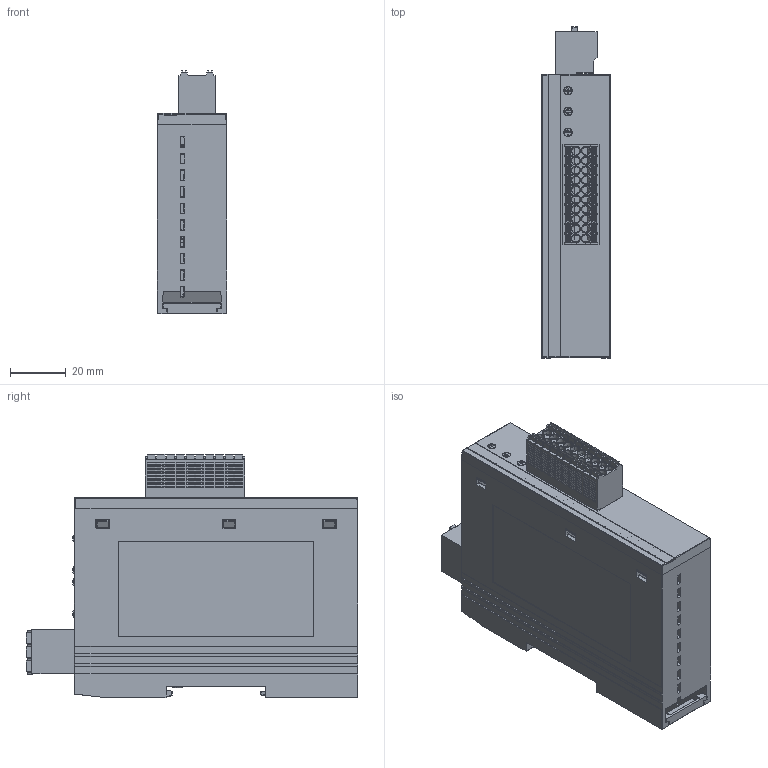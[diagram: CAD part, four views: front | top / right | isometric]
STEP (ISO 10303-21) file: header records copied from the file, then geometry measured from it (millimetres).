
FILE_DESCRIPTION((''),'2;1');
FILE_NAME('EI4_CB4_2_V1_00','2023-09-28T14:14:54',('董'),(''),'CREO PARAMETRIC BY PTC INC, 2020033','CREO PARAMETRIC BY PTC INC, 2020033','');
FILE_SCHEMA(('CONFIG_CONTROL_DESIGN'));
Products named in the file (1): EI4_CB4_2_V1_00
Bounding box: 25 x 119.4 x 87.5 mm (x, y, z)
Volume: 52747 mm3; surface area: 60579.8 mm2
Topology: 1 solids, 4 shells, 6418 faces, 17256 edges, 10675 vertices
Faces by surface type: plane 3909, cylinder 1751, bspline 364, sphere 152, cone 134, torus 108
Entity records: 212820 total; most frequent: CARTESIAN_POINT 56111, ORIENTED_EDGE 34238, DIRECTION 30153, EDGE_CURVE 17119, VECTOR 12417, LINE 12417, VERTEX_POINT 10675, AXIS2_PLACEMENT_3D 8868
